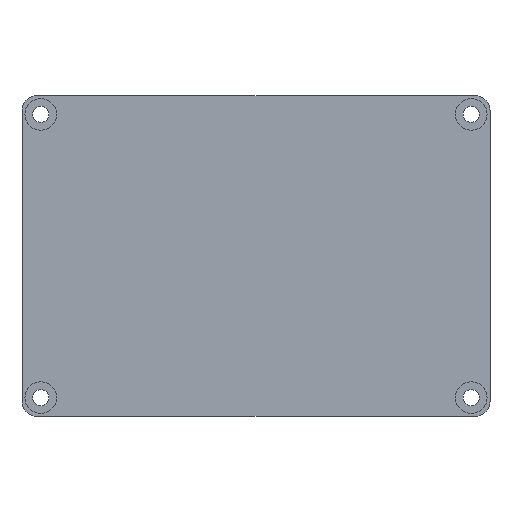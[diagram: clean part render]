
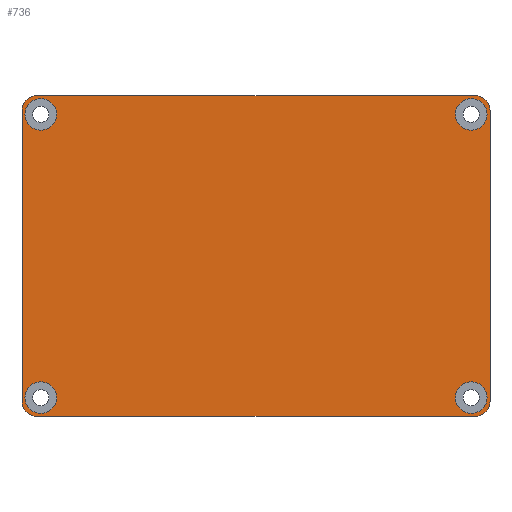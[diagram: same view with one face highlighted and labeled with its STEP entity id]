
A CAD part, front view. The second image highlights one B-rep face of the part: STEP entity #736.
In plain terms, the highlighted planar face has unit normal (0, -1, 0).
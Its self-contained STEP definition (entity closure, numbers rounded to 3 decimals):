
#6 = EDGE_LOOP ( 'NONE', ( #810, #2009 ) ) ;
#7 = EDGE_CURVE ( 'NONE', #265, #1785, #849, .T. ) ;
#13 = AXIS2_PLACEMENT_3D ( 'NONE', #1580, #565, #1730 ) ;
#19 = CARTESIAN_POINT ( 'NONE',  ( 29.75, 0., 19.75 ) ) ;
#24 = CARTESIAN_POINT ( 'NONE',  ( 29.2, 0., -19.225 ) ) ;
#29 = DIRECTION ( 'NONE',  ( 0., -1., 0. ) ) ;
#37 = DIRECTION ( 'NONE',  ( 0., 0., -1. ) ) ;
#47 = AXIS2_PLACEMENT_3D ( 'NONE', #1297, #239, #1456 ) ;
#52 = ORIENTED_EDGE ( 'NONE', *, *, #700, .F. ) ;
#58 = DIRECTION ( 'NONE',  ( 0., 0., 1. ) ) ;
#115 = VERTEX_POINT ( 'NONE', #332 ) ;
#122 = AXIS2_PLACEMENT_3D ( 'NONE', #2012, #1120, #58 ) ;
#128 = AXIS2_PLACEMENT_3D ( 'NONE', #152, #1373, #320 ) ;
#152 = CARTESIAN_POINT ( 'NONE',  ( 29.2, 0., -19.225 ) ) ;
#173 = CARTESIAN_POINT ( 'NONE',  ( -31.75, 0., 19.75 ) ) ;
#175 = DIRECTION ( 'NONE',  ( 0., 0., -1. ) ) ;
#180 = DIRECTION ( 'NONE',  ( 0., 0., -1. ) ) ;
#213 = DIRECTION ( 'NONE',  ( 0., -1., 0. ) ) ;
#227 = EDGE_CURVE ( 'NONE', #1263, #265, #1483, .T. ) ;
#237 = ORIENTED_EDGE ( 'NONE', *, *, #1830, .F. ) ;
#239 = DIRECTION ( 'NONE',  ( 0., -1., 0. ) ) ;
#245 = CARTESIAN_POINT ( 'NONE',  ( -29.75, 0., 21.75 ) ) ;
#265 = VERTEX_POINT ( 'NONE', #845 ) ;
#307 = EDGE_CURVE ( 'NONE', #1013, #888, #1718, .T. ) ;
#320 = DIRECTION ( 'NONE',  ( 0., 0., -1. ) ) ;
#332 = CARTESIAN_POINT ( 'NONE',  ( 29.75, 0., 21.75 ) ) ;
#378 = ORIENTED_EDGE ( 'NONE', *, *, #855, .F. ) ;
#389 = CARTESIAN_POINT ( 'NONE',  ( -29.75, 0., 19.75 ) ) ;
#395 = DIRECTION ( 'NONE',  ( 0., -1., 0. ) ) ;
#403 = EDGE_CURVE ( 'NONE', #1222, #437, #1916, .T. ) ;
#405 = ORIENTED_EDGE ( 'NONE', *, *, #227, .F. ) ;
#416 = DIRECTION ( 'NONE',  ( 1., 0., 0. ) ) ;
#429 = EDGE_CURVE ( 'NONE', #899, #1263, #1978, .T. ) ;
#437 = VERTEX_POINT ( 'NONE', #999 ) ;
#438 = VERTEX_POINT ( 'NONE', #1920 ) ;
#461 = CARTESIAN_POINT ( 'NONE',  ( -29.75, 0., -19.75 ) ) ;
#463 = AXIS2_PLACEMENT_3D ( 'NONE', #1514, #489, #1672 ) ;
#468 = AXIS2_PLACEMENT_3D ( 'NONE', #19, #1239, #175 ) ;
#474 = CIRCLE ( 'NONE', #802, 2.15 ) ;
#489 = DIRECTION ( 'NONE',  ( 0., -1., 0. ) ) ;
#511 = EDGE_LOOP ( 'NONE', ( #1559, #1154 ) ) ;
#531 = CIRCLE ( 'NONE', #791, 2.15 ) ;
#561 = AXIS2_PLACEMENT_3D ( 'NONE', #1090, #29, #1249 ) ;
#565 = DIRECTION ( 'NONE',  ( 0., 1., 0. ) ) ;
#592 = EDGE_CURVE ( 'NONE', #1857, #899, #1797, .T. ) ;
#639 = ORIENTED_EDGE ( 'NONE', *, *, #403, .F. ) ;
#652 = DIRECTION ( 'NONE',  ( 0., 0., 1. ) ) ;
#663 = VERTEX_POINT ( 'NONE', #1886 ) ;
#666 = EDGE_CURVE ( 'NONE', #663, #438, #1738, .T. ) ;
#672 = AXIS2_PLACEMENT_3D ( 'NONE', #24, #1244, #180 ) ;
#673 = CARTESIAN_POINT ( 'NONE',  ( -29.75, 0., -21.75 ) ) ;
#685 = CIRCLE ( 'NONE', #752, 2.15 ) ;
#700 = EDGE_CURVE ( 'NONE', #1785, #1242, #1688, .T. ) ;
#736 = ADVANCED_FACE ( 'NONE', ( #1642, #1643, #1649, #1625, #1624 ), #947, .T. ) ;
#742 = CIRCLE ( 'NONE', #672, 2.15 ) ;
#746 = CARTESIAN_POINT ( 'NONE',  ( -29.2, 0., 19.225 ) ) ;
#752 = AXIS2_PLACEMENT_3D ( 'NONE', #1993, #1100, #37 ) ;
#791 = AXIS2_PLACEMENT_3D ( 'NONE', #746, #1866, #937 ) ;
#802 = AXIS2_PLACEMENT_3D ( 'NONE', #1277, #213, #1435 ) ;
#806 = EDGE_CURVE ( 'NONE', #1242, #115, #1551, .T. ) ;
#810 = ORIENTED_EDGE ( 'NONE', *, *, #1534, .F. ) ;
#845 = CARTESIAN_POINT ( 'NONE',  ( -31.75, 0., -19.75 ) ) ;
#846 = CARTESIAN_POINT ( 'NONE',  ( 31.75, 0., -19.75 ) ) ;
#849 = LINE ( 'NONE', #1593, #1561 ) ;
#855 = EDGE_CURVE ( 'NONE', #115, #1510, #1495, .T. ) ;
#866 = CIRCLE ( 'NONE', #463, 2.15 ) ;
#888 = VERTEX_POINT ( 'NONE', #1094 ) ;
#899 = VERTEX_POINT ( 'NONE', #1245 ) ;
#937 = DIRECTION ( 'NONE',  ( 0., 0., -1. ) ) ;
#947 = PLANE ( 'NONE',  #1547 ) ;
#953 = DIRECTION ( 'NONE',  ( 0., 0., 1. ) ) ;
#986 = EDGE_LOOP ( 'NONE', ( #52, #1035, #405, #1039, #2026, #1691, #378, #1066 ) ) ;
#999 = CARTESIAN_POINT ( 'NONE',  ( -29.2, 0., 17.075 ) ) ;
#1013 = VERTEX_POINT ( 'NONE', #1482 ) ;
#1035 = ORIENTED_EDGE ( 'NONE', *, *, #7, .F. ) ;
#1039 = ORIENTED_EDGE ( 'NONE', *, *, #429, .F. ) ;
#1047 = EDGE_CURVE ( 'NONE', #1510, #1857, #1255, .T. ) ;
#1066 = ORIENTED_EDGE ( 'NONE', *, *, #806, .F. ) ;
#1090 = CARTESIAN_POINT ( 'NONE',  ( -29.2, 0., 19.225 ) ) ;
#1094 = CARTESIAN_POINT ( 'NONE',  ( 29.2, 0., -21.375 ) ) ;
#1100 = DIRECTION ( 'NONE',  ( 0., -1., 0. ) ) ;
#1106 = ORIENTED_EDGE ( 'NONE', *, *, #1741, .F. ) ;
#1120 = DIRECTION ( 'NONE',  ( 0., 1., 0. ) ) ;
#1154 = ORIENTED_EDGE ( 'NONE', *, *, #666, .F. ) ;
#1200 = VERTEX_POINT ( 'NONE', #1907 ) ;
#1207 = VECTOR ( 'NONE', #1885, 1000. ) ;
#1222 = VERTEX_POINT ( 'NONE', #1772 ) ;
#1239 = DIRECTION ( 'NONE',  ( 0., 1., 0. ) ) ;
#1242 = VERTEX_POINT ( 'NONE', #1320 ) ;
#1244 = DIRECTION ( 'NONE',  ( 0., -1., 0. ) ) ;
#1245 = CARTESIAN_POINT ( 'NONE',  ( 29.75, 0., -21.75 ) ) ;
#1249 = DIRECTION ( 'NONE',  ( 0., 0., -1. ) ) ;
#1255 = LINE ( 'NONE', #846, #1207 ) ;
#1263 = VERTEX_POINT ( 'NONE', #2047 ) ;
#1277 = CARTESIAN_POINT ( 'NONE',  ( -29.2, 0., -19.225 ) ) ;
#1297 = CARTESIAN_POINT ( 'NONE',  ( 29.2, 0., 19.225 ) ) ;
#1320 = CARTESIAN_POINT ( 'NONE',  ( -29.75, 0., 21.75 ) ) ;
#1323 = EDGE_LOOP ( 'NONE', ( #1106, #2001 ) ) ;
#1356 = CARTESIAN_POINT ( 'NONE',  ( 31.75, 0., 19.75 ) ) ;
#1373 = DIRECTION ( 'NONE',  ( 0., -1., 0. ) ) ;
#1435 = DIRECTION ( 'NONE',  ( 0., 0., -1. ) ) ;
#1456 = DIRECTION ( 'NONE',  ( 0., 0., -1. ) ) ;
#1482 = CARTESIAN_POINT ( 'NONE',  ( 29.2, 0., -17.075 ) ) ;
#1483 = CIRCLE ( 'NONE', #1596, 2. ) ;
#1495 = CIRCLE ( 'NONE', #468, 2. ) ;
#1510 = VERTEX_POINT ( 'NONE', #1356 ) ;
#1514 = CARTESIAN_POINT ( 'NONE',  ( -29.2, 0., -19.225 ) ) ;
#1534 = EDGE_CURVE ( 'NONE', #1200, #1789, #866, .T. ) ;
#1544 = VECTOR ( 'NONE', #416, 1000. ) ;
#1547 = AXIS2_PLACEMENT_3D ( 'NONE', #389, #395, #1595 ) ;
#1551 = LINE ( 'NONE', #245, #1544 ) ;
#1559 = ORIENTED_EDGE ( 'NONE', *, *, #1805, .F. ) ;
#1561 = VECTOR ( 'NONE', #953, 1000. ) ;
#1572 = CARTESIAN_POINT ( 'NONE',  ( 31.75, 0., -19.75 ) ) ;
#1580 = CARTESIAN_POINT ( 'NONE',  ( -29.75, 0., 19.75 ) ) ;
#1593 = CARTESIAN_POINT ( 'NONE',  ( -31.75, 0., -19.75 ) ) ;
#1595 = DIRECTION ( 'NONE',  ( 0., 0., -1. ) ) ;
#1596 = AXIS2_PLACEMENT_3D ( 'NONE', #461, #1652, #652 ) ;
#1624 = FACE_OUTER_BOUND ( 'NONE', #986, .T. ) ;
#1625 = FACE_BOUND ( 'NONE', #1769, .T. ) ;
#1642 = FACE_BOUND ( 'NONE', #6, .T. ) ;
#1643 = FACE_BOUND ( 'NONE', #1323, .T. ) ;
#1649 = FACE_BOUND ( 'NONE', #511, .T. ) ;
#1652 = DIRECTION ( 'NONE',  ( 0., 1., 0. ) ) ;
#1672 = DIRECTION ( 'NONE',  ( 0., 0., -1. ) ) ;
#1688 = CIRCLE ( 'NONE', #13, 2. ) ;
#1691 = ORIENTED_EDGE ( 'NONE', *, *, #1047, .F. ) ;
#1702 = CARTESIAN_POINT ( 'NONE',  ( -29.2, 0., -17.075 ) ) ;
#1718 = CIRCLE ( 'NONE', #128, 2.15 ) ;
#1730 = DIRECTION ( 'NONE',  ( 0., 0., -1. ) ) ;
#1738 = CIRCLE ( 'NONE', #47, 2.15 ) ;
#1741 = EDGE_CURVE ( 'NONE', #888, #1013, #742, .T. ) ;
#1769 = EDGE_LOOP ( 'NONE', ( #237, #639 ) ) ;
#1772 = CARTESIAN_POINT ( 'NONE',  ( -29.2, 0., 21.375 ) ) ;
#1773 = DIRECTION ( 'NONE',  ( -1., 0., 0. ) ) ;
#1785 = VERTEX_POINT ( 'NONE', #173 ) ;
#1789 = VERTEX_POINT ( 'NONE', #1702 ) ;
#1797 = CIRCLE ( 'NONE', #122, 2. ) ;
#1805 = EDGE_CURVE ( 'NONE', #438, #663, #685, .T. ) ;
#1830 = EDGE_CURVE ( 'NONE', #437, #1222, #531, .T. ) ;
#1857 = VERTEX_POINT ( 'NONE', #1572 ) ;
#1866 = DIRECTION ( 'NONE',  ( 0., -1., 0. ) ) ;
#1885 = DIRECTION ( 'NONE',  ( 0., 0., -1. ) ) ;
#1886 = CARTESIAN_POINT ( 'NONE',  ( 29.2, 0., 21.375 ) ) ;
#1900 = EDGE_CURVE ( 'NONE', #1789, #1200, #474, .T. ) ;
#1907 = CARTESIAN_POINT ( 'NONE',  ( -29.2, 0., -21.375 ) ) ;
#1916 = CIRCLE ( 'NONE', #561, 2.15 ) ;
#1920 = CARTESIAN_POINT ( 'NONE',  ( 29.2, 0., 17.075 ) ) ;
#1978 = LINE ( 'NONE', #673, #2103 ) ;
#1993 = CARTESIAN_POINT ( 'NONE',  ( 29.2, 0., 19.225 ) ) ;
#2001 = ORIENTED_EDGE ( 'NONE', *, *, #307, .F. ) ;
#2009 = ORIENTED_EDGE ( 'NONE', *, *, #1900, .F. ) ;
#2012 = CARTESIAN_POINT ( 'NONE',  ( 29.75, 0., -19.75 ) ) ;
#2026 = ORIENTED_EDGE ( 'NONE', *, *, #592, .F. ) ;
#2047 = CARTESIAN_POINT ( 'NONE',  ( -29.75, 0., -21.75 ) ) ;
#2103 = VECTOR ( 'NONE', #1773, 1000. ) ;
